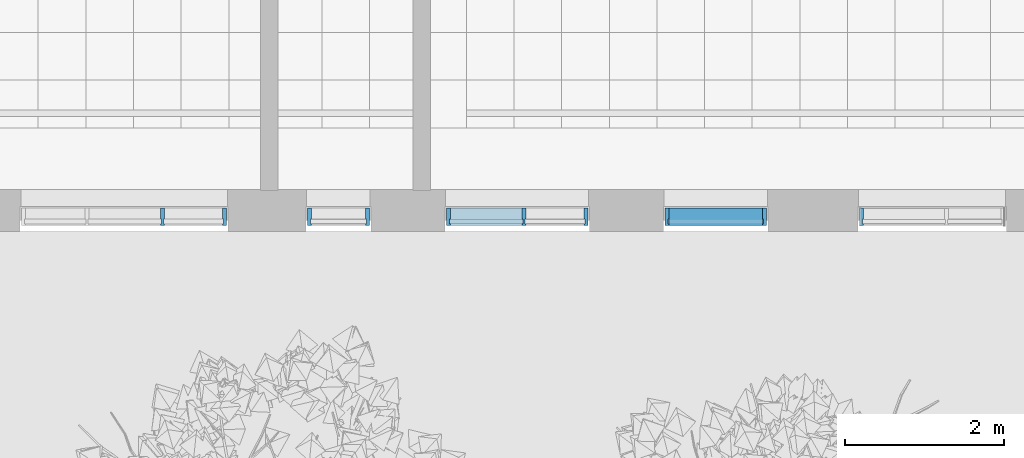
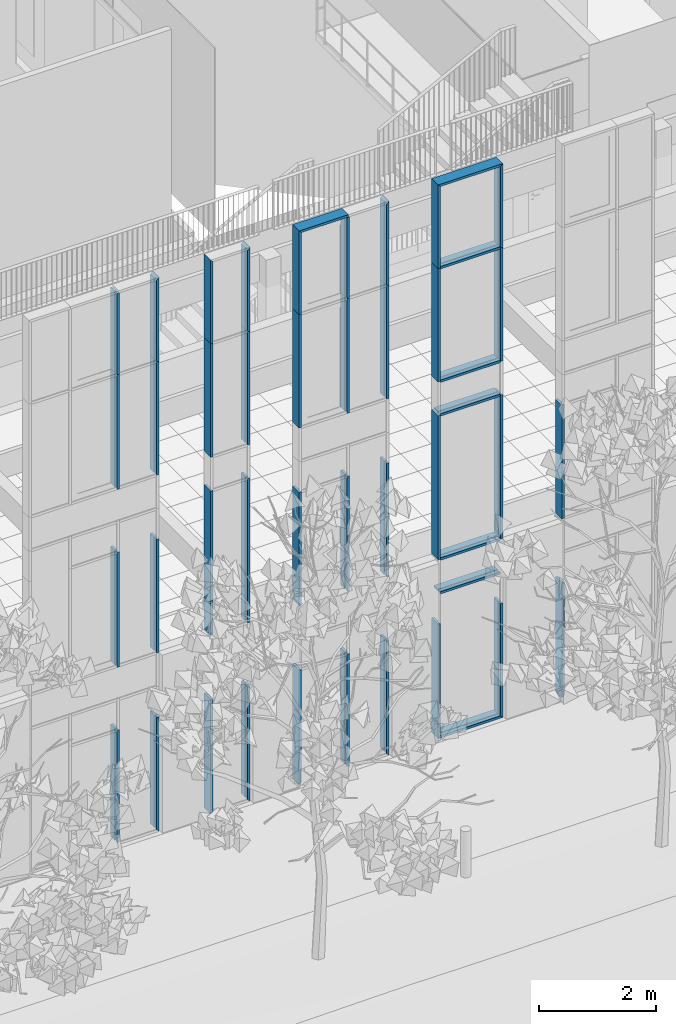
# One storey, part 4 of 246: 46 members, 5 elements without a shape of their own.
"""IFC2X3 building model written with IfcOpenShell, lengths in millimetres."""

from ifc_helpers import new_model, entity, si_unit, converted_unit, derived_unit, money_unit, direction, frame, origin_with_axes, place, context, subcontext, project, spatial, faceted_brep, source, transform, mapped, material, type_object, element, aggregate, save


model = new_model("IFC2X3")

# Units and contexts
model_context = context("Model", 3, precision=0.01, world=origin_with_axes(), true_north=direction((0.0, 1.0)))
body_context = subcontext(model_context, "Body", "Model", "MODEL_VIEW")
ifc_project = project(units=[si_unit("LENGTHUNIT", "METRE", prefix="MILLI"), si_unit("AREAUNIT", "SQUARE_METRE"), si_unit("VOLUMEUNIT", "CUBIC_METRE"), converted_unit("PLANEANGLEUNIT", "DEGREE", entity("IfcPlaneAngleMeasure", 0.0174532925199), si_unit("PLANEANGLEUNIT", "RADIAN"), dimensions=[0, 0, 0, 0, 0, 0, 0]), si_unit("SOLIDANGLEUNIT", "STERADIAN"), money_unit("EUR"), converted_unit("TIMEUNIT", "Year", entity("IfcTimeMeasure", 31556926.0), si_unit("TIMEUNIT", "SECOND"), dimensions=[0, 0, 1, 0, 0, 0, 0]), si_unit("MASSUNIT", "GRAM", prefix="KILO"), si_unit("THERMODYNAMICTEMPERATUREUNIT", "DEGREE_CELSIUS"), si_unit("LUMINOUSINTENSITYUNIT", "LUMEN"), si_unit("ENERGYUNIT", "JOULE", prefix="MEGA"), derived_unit("THERMALCONDUCTANCEUNIT", [(si_unit("POWERUNIT", "WATT"), 1), (si_unit("LENGTHUNIT", "METRE"), -1), (si_unit("THERMODYNAMICTEMPERATUREUNIT", "KELVIN"), -1)]), derived_unit("SPECIFICHEATCAPACITYUNIT", [(si_unit("ENERGYUNIT", "JOULE"), 1), (si_unit("MASSUNIT", "GRAM", prefix="KILO"), -1), (si_unit("THERMODYNAMICTEMPERATUREUNIT", "KELVIN"), -1)]), derived_unit("MASSDENSITYUNIT", [(si_unit("MASSUNIT", "GRAM", prefix="KILO"), 1), (si_unit("VOLUMEUNIT", "CUBIC_METRE"), -1)])], contexts=[model_context])

# Site, building, storey
site_placement = place(None, origin_with_axes())
site = spatial("IfcSite", under=ifc_project, at=site_placement, Name="L.Koidula tn 11b", CompositionType="ELEMENT")
building_placement = place(site_placement, origin_with_axes())
building = spatial("IfcBuilding", under=site, at=building_placement, Name="Rakvere Riigigümnaasium", CompositionType="ELEMENT")
storey_placement = place(building_placement, origin_with_axes())
storey = spatial("IfcBuildingStorey", under=building, at=storey_placement, Name="1.korrus 0,00", CompositionType="ELEMENT", Elevation=0.0)

# Curtain wall, members
curtain_wall_type = type_object("IfcCurtainWallType", Name="Curtain Wall Type", PredefinedType="NOTDEFINED")
curtain_wall_1_placement = place(storey_placement, frame((54287.5000684, 5111.45334637, -1.61944652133e-05), z_axis=(0.0, 0.0, 1.0), x_axis=(1.0, 0.0, 0.0)))
curtain_wall_1 = element("IfcCurtainWall", 1, at=curtain_wall_1_placement, inside=storey, type_object=curtain_wall_type, Name="KLF-05-2B")
ifc_material = material(Name="Alumiiniumprofiil (RAL 7021)")
member_type_1 = type_object("IfcMemberType", Name="Boundary Frame 50 x 222", PredefinedType="MULLION")
shared_shape_1 = source(origin_with_axes(), body_context, "Body", "Brep", [
    faceted_brep([(37.0, -32.5, 2375.00000025), (37.0, 32.5, 2375.00000025), (50.0, 32.5, 2375.00000025), (50.0, 53.0, 2375.00000025), (0.0, 53.0, 2375.00000025), (0.0, -169.0, 2375.00000025), (50.0, -169.0, 2375.00000025), (50.0, -32.5, 2375.00000025), (37.0, -32.5, -2.4712543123e-07), (37.0, 32.5, -2.4712543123e-07), (50.0, 32.5, -2.47125653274e-07), (50.0, 53.0, -2.47125653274e-07), (0.0, 53.0, -2.47125653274e-07), (0.0, -169.0, -2.47125653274e-07), (50.0, -169.0, -2.47125653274e-07), (50.0, -32.5, -2.47125653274e-07)], [[[0, 1, 2, 3, 4, 5, 6, 7]], [[1, 0, 8, 9]], [[10, 2, 1, 9]], [[2, 10, 11, 3]], [[12, 4, 3, 11]], [[13, 5, 4, 12]], [[14, 6, 5, 13]], [[15, 7, 6, 14]], [[0, 7, 15, 8]], [[8, 15, 14, 13, 12, 11, 10, 9]]]),
])
member_1_placement = place(curtain_wall_1_placement, frame((402.500049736, 0.0, 7465.0), z_axis=(-9.88502865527e-09, 0.0, 1.0), x_axis=(-1.0, 0.0, -9.88502865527e-09)))
member_1 = element("IfcMember", 2, at=member_1_placement, type_object=member_type_1, material=ifc_material, Name="KLF-05-7B-Profiilid", ObjectType="MULLION", context=body_context, shape_type="MappedRepresentation", body=[
    mapped(shared_shape_1, transform((0.0, 0.0, 0.0))),
])
member_2_placement = place(curtain_wall_1_placement, frame((402.500049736, 0.0, 3745.0), z_axis=(0.0, 0.0, 1.0), x_axis=(-1.0, 0.0, 0.0)))
member_2 = element("IfcMember", 3, at=member_2_placement, type_object=member_type_1, material=ifc_material, Name="KLF-05-4B-Profiilid", ObjectType="MULLION", context=body_context, shape_type="MappedRepresentation", body=[
    mapped(shared_shape_1, transform((0.0, 0.0, 0.0))),
])

# Curtain wall, member
curtain_wall_2_placement = place(storey_placement, frame((51550.0001978, 5111.45334637, -1.61944652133e-05), z_axis=(0.0, 0.0, 1.0), x_axis=(1.0, 0.0, 0.0)))
curtain_wall_2 = element("IfcCurtainWall", 4, at=curtain_wall_2_placement, inside=storey, type_object=curtain_wall_type, Name="KLF-05-4A")
member_3_placement = place(curtain_wall_2_placement, frame((390.000208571, 0.0, 7465.0), z_axis=(-9.66678881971e-09, 0.0, 1.0), x_axis=(-1.0, 0.0, -9.66678881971e-09)))
member_3 = element("IfcMember", 5, at=member_3_placement, type_object=member_type_1, material=ifc_material, Name="KLF-05-0A-Profiilid", ObjectType="MULLION", context=body_context, shape_type="MappedRepresentation", body=[
    mapped(shared_shape_1, transform((0.0, 0.0, 0.0))),
])

curtain_wall_3_placement = place(storey_placement, frame((56300.0000472, 5111.45334637, -1.61944652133e-05), z_axis=(0.0, 0.0, 1.0), x_axis=(1.0, 0.0, 0.0)))
curtain_wall_3 = element("IfcCurtainWall", 6, at=curtain_wall_3_placement, inside=storey, type_object=curtain_wall_type, Name="KLF-05-1E")
member_4_placement = place(curtain_wall_3_placement, frame((640.000087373, 0.0, 7465.0), z_axis=(-3.1471672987e-08, 0.0, 1.0), x_axis=(-1.0, 0.0, -3.1471672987e-08)))
member_4 = element("IfcMember", 7, at=member_4_placement, type_object=member_type_1, material=ifc_material, Name="KLF-05-7A-Profiilid", ObjectType="MULLION", context=body_context, shape_type="MappedRepresentation", body=[
    mapped(shared_shape_1, transform((0.0, 0.0, 0.0))),
])

# Curtain wall, members
curtain_wall_4_placement = place(storey_placement, frame((48860.000217, 5111.43278481, -1.61944597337e-05), z_axis=(0.0, 0.0, 1.0), x_axis=(1.0, 0.0, 0.0)))
curtain_wall_4 = element("IfcCurtainWall", 8, at=curtain_wall_4_placement, inside=storey, type_object=curtain_wall_type, Name="KLF-05-3A")
member_5_placement = place(curtain_wall_4_placement, frame((1279.99946018, -0.0202452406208, 7465.0), z_axis=(2.10851686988e-09, 0.0, 1.0), x_axis=(-0.999999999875, 1.58166009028e-05, 2.10851687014e-09)))
member_5 = element("IfcMember", 9, at=member_5_placement, type_object=member_type_1, material=ifc_material, Name="KLF-05-1A-Profiilid", ObjectType="MULLION", context=body_context, shape_type="MappedRepresentation", body=[
    mapped(shared_shape_1, transform((0.0, 0.0, 0.0))),
])
member_6_placement = place(curtain_wall_4_placement, frame((1279.99946018, -0.0202452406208, 3745.0), z_axis=(0.0, 0.0, 1.0), x_axis=(-0.999999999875, 1.58166009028e-05, 0.0)))
member_6 = element("IfcMember", 10, at=member_6_placement, type_object=member_type_1, material=ifc_material, Name="KLF-05-8A-Profiilid", ObjectType="MULLION", context=body_context, shape_type="MappedRepresentation", body=[
    mapped(shared_shape_1, transform((0.0, 0.0, 0.0))),
])

# Member
shared_shape_2 = source(origin_with_axes(), body_context, "Body", "Brep", [
    faceted_brep([(-37.0, -32.5, 2375.0), (-50.0, -32.5, 2375.0), (-50.0, -169.0, 2375.0), (0.0, -169.0, 2375.0), (0.0, 53.0, 2375.0), (-50.0, 53.0, 2375.0), (-50.0, 32.5, 2375.0), (-37.0, 32.5, 2375.0), (-37.0, -32.5, 0.0), (-50.0, -32.5, 0.0), (-50.0, -169.0, 0.0), (0.0, -169.0, 0.0), (0.0, 53.0, 0.0), (-50.0, 53.0, 0.0), (-50.0, 32.5, 0.0), (-37.0, 32.5, 0.0)], [[[0, 1, 2, 3, 4, 5, 6, 7]], [[0, 8, 9, 1]], [[9, 10, 2, 1]], [[10, 11, 3, 2]], [[11, 12, 4, 3]], [[12, 13, 5, 4]], [[6, 5, 13, 14]], [[14, 15, 7, 6]], [[7, 15, 8, 0]], [[8, 15, 14, 13, 12, 11, 10, 9]]]),
])
member_7_placement = place(curtain_wall_1_placement, frame((-1377.50004974, 0.0, 3745.0), z_axis=(0.0, 0.0, 1.0), x_axis=(-1.0, 0.0, 0.0)))
member_7 = element("IfcMember", 11, at=member_7_placement, type_object=member_type_1, material=ifc_material, Name="KLF-05-5B-Profiilid", ObjectType="MULLION", context=body_context, shape_type="MappedRepresentation", body=[
    mapped(shared_shape_2, transform((0.0, 0.0, 0.0))),
])

member_8_placement = place(curtain_wall_1_placement, frame((-1377.50004974, 0.0, 7465.0), z_axis=(0.0, 0.0, 1.0), x_axis=(-1.0, 0.0, 0.0)))
member_8 = element("IfcMember", 12, at=member_8_placement, type_object=member_type_1, material=ifc_material, Name="KLF-05-2B-Profiilid", ObjectType="MULLION", context=body_context, shape_type="MappedRepresentation", body=[
    mapped(shared_shape_2, transform((0.0, 0.0, 0.0))),
])

member_9_placement = place(curtain_wall_2_placement, frame((-390.000197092, 0.0, 7465.0), z_axis=(0.0, 0.0, 1.0), x_axis=(-1.0, 0.0, 0.0)))
member_9 = element("IfcMember", 13, at=member_9_placement, type_object=member_type_1, material=ifc_material, Name="KLF-05-4A-Profiilid", ObjectType="MULLION", context=body_context, shape_type="MappedRepresentation", body=[
    mapped(shared_shape_2, transform((0.0, 0.0, 0.0))),
])

member_10_placement = place(curtain_wall_3_placement, frame((-640.00005, 0.0, 7465.0), z_axis=(0.0, 0.0, 1.0), x_axis=(-1.0, 0.0, 0.0)))
member_10 = element("IfcMember", 14, at=member_10_placement, type_object=member_type_1, material=ifc_material, Name="KLF-05-1A-Profiilid", ObjectType="MULLION", context=body_context, shape_type="MappedRepresentation", body=[
    mapped(shared_shape_2, transform((0.0, 0.0, 0.0))),
])

# Curtain wall, member
curtain_wall_5_placement = place(storey_placement, frame((59064.0000846, 5111.45334637, -8.09717250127e-06), z_axis=(0.0, 0.0, 1.0), x_axis=(1.0, 0.0, 0.0)))
curtain_wall_5 = element("IfcCurtainWall", 15, at=curtain_wall_5_placement, inside=storey, type_object=curtain_wall_type, Name="KLF-05-2A")
member_11_placement = place(curtain_wall_5_placement, frame((-954.000087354, 0.0, 3745.0), z_axis=(0.0, 0.0, 1.0), x_axis=(-1.0, 0.0, 0.0)))
member_11 = element("IfcMember", 16, at=member_11_placement, type_object=member_type_1, material=ifc_material, Name="KLF-05-6A-Profiilid", ObjectType="MULLION", context=body_context, shape_type="MappedRepresentation", body=[
    mapped(shared_shape_2, transform((0.0, 0.0, 0.0))),
])

# Member
shared_shape_3 = source(origin_with_axes(), body_context, "Body", "Brep", [
    faceted_brep([(37.0, -32.5, 1712.99983191), (37.0, 32.5, 1712.99983191), (50.0, 32.5, 1699.99983191), (50.0, 53.0, 1699.99983191), (0.0, 53.0, 1749.99983191), (0.0, -169.0, 1749.99983191), (50.0, -169.0, 1699.99983191), (50.0, -32.5, 1699.99983191), (37.0, -32.5, -2.47125875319e-07), (37.0, 32.5, -2.47125875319e-07), (50.0, 32.5, -2.47125764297e-07), (50.0, 53.0, -2.47125764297e-07), (0.0, 53.0, -2.47125764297e-07), (0.0, -169.0, -2.47125764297e-07), (50.0, -169.0, -2.47125764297e-07), (50.0, -32.5, -2.47125764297e-07)], [[[0, 1, 2, 3, 4, 5, 6, 7]], [[1, 0, 8, 9]], [[10, 2, 1, 9]], [[2, 10, 11, 3]], [[12, 4, 3, 11]], [[13, 5, 4, 12]], [[14, 6, 5, 13]], [[15, 7, 6, 14]], [[0, 7, 15, 8]], [[8, 15, 14, 13, 12, 11, 10, 9]]]),
])
member_12_placement = place(curtain_wall_1_placement, frame((402.50002626, 0.0, 9840.0), z_axis=(0.0, 0.0, 1.0), x_axis=(-1.0, 0.0, 0.0)))
member_12 = element("IfcMember", 17, at=member_12_placement, type_object=member_type_1, material=ifc_material, Name="KLF-05-8B-Profiilid", ObjectType="MULLION", context=body_context, shape_type="MappedRepresentation", body=[
    mapped(shared_shape_3, transform((0.0, 0.0, 0.0))),
])

member_13_placement = place(curtain_wall_2_placement, frame((390.000185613, 0.0, 9840.0), z_axis=(-3.82689254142e-08, 0.0, 1.0), x_axis=(-1.0, 0.0, -3.82689254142e-08)))
member_13 = element("IfcMember", 18, at=member_13_placement, type_object=member_type_1, material=ifc_material, Name="KLF-05-1A-Profiilid", ObjectType="MULLION", context=body_context, shape_type="MappedRepresentation", body=[
    mapped(shared_shape_3, transform((0.0, 0.0, 0.0))),
])

member_14_placement = place(curtain_wall_3_placement, frame((640.000012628, 0.0, 9840.0), z_axis=(2.93790209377e-08, 0.0, 1.0), x_axis=(-1.0, 0.0, 2.93790209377e-08)))
member_14 = element("IfcMember", 19, at=member_14_placement, type_object=member_type_1, material=ifc_material, Name="KLF-05-8A-Profiilid", ObjectType="MULLION", context=body_context, shape_type="MappedRepresentation", body=[
    mapped(shared_shape_3, transform((0.0, 0.0, 0.0))),
])

member_15_placement = place(curtain_wall_4_placement, frame((1279.99946519, -0.0202452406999, 9840.0), z_axis=(3.89462512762e-08, 0.0, 1.0), x_axis=(-0.999999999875, 1.58166009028e-05, 3.89462512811e-08)))
member_15 = element("IfcMember", 20, at=member_15_placement, type_object=member_type_1, material=ifc_material, Name="KLF-05-2A-Profiilid", ObjectType="MULLION", context=body_context, shape_type="MappedRepresentation", body=[
    mapped(shared_shape_3, transform((0.0, 0.0, 0.0))),
])

member_type_2 = type_object("IfcMemberType", Name="Mullion Frame 50 x 222", PredefinedType="MULLION")
shared_shape_4 = source(origin_with_axes(), body_context, "Body", "Brep", [
    faceted_brep([(-12.0, -32.5, 2375.0), (-25.0, -32.5, 2375.0), (-25.0, -169.0, 2375.0), (25.0, -169.0, 2375.0), (25.0, -32.5, 2375.0), (12.0, -32.5, 2375.0), (12.0, 32.5, 2375.0), (25.0, 32.5, 2375.0), (25.0, 53.0, 2375.0), (-25.0, 53.0, 2375.0), (-25.0, 32.5, 2375.0), (-12.0, 32.5, 2375.0), (-12.0, -32.5, -25.0), (-25.0, -32.5, -25.0), (-25.0, -169.0, -25.0), (25.0, -169.0, -25.0), (25.0, -32.5, -25.0), (12.0, -32.5, -25.0), (12.0, 32.5, -25.0), (25.0, 32.5, -25.0), (25.0, 53.0, -25.0), (-25.0, 53.0, -25.0), (-25.0, 32.5, -25.0), (-12.0, 32.5, -25.0)], [[[0, 1, 2, 3, 4, 5, 6, 7, 8, 9, 10, 11]], [[1, 0, 12, 13]], [[1, 13, 14, 2]], [[3, 2, 14, 15]], [[4, 3, 15, 16]], [[4, 16, 17, 5]], [[5, 17, 18, 6]], [[7, 6, 18, 19]], [[19, 20, 8, 7]], [[9, 8, 20, 21]], [[22, 10, 9, 21]], [[11, 10, 22, 23]], [[0, 11, 23, 12]], [[23, 22, 21, 20, 19, 18, 17, 16, 15, 14, 13, 12]]]),
])
member_16_placement = place(curtain_wall_1_placement, frame((-402.500049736, 0.0, 3745.0), z_axis=(0.0, 0.0, 1.0), x_axis=(-1.0, 0.0, 0.0)))
member_16 = element("IfcMember", 21, at=member_16_placement, type_object=member_type_2, material=ifc_material, Name="KLF-05-2B-Profiilid", ObjectType="MULLION", context=body_context, shape_type="MappedRepresentation", body=[
    mapped(shared_shape_4, transform((0.0, 0.0, 0.0))),
])

member_17_placement = place(curtain_wall_1_placement, frame((-402.500049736, 0.0, 7465.0), z_axis=(0.0, 0.0, 1.0), x_axis=(-1.0, 0.0, 0.0)))
member_17 = element("IfcMember", 22, at=member_17_placement, type_object=member_type_2, material=ifc_material, Name="KLF-05-3B-Profiilid", ObjectType="MULLION", context=body_context, shape_type="MappedRepresentation", body=[
    mapped(shared_shape_4, transform((0.0, 0.0, 0.0))),
])

member_18_placement = place(curtain_wall_4_placement, frame((474.999999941, -0.00751288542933, 7465.0), z_axis=(0.0, 0.0, 1.0), x_axis=(-0.999999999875, 1.58166009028e-05, 0.0)))
member_18 = element("IfcMember", 23, at=member_18_placement, type_object=member_type_2, material=ifc_material, Name="KLF-05-4A-Profiilid", ObjectType="MULLION", context=body_context, shape_type="MappedRepresentation", body=[
    mapped(shared_shape_4, transform((0.0, 0.0, 0.0))),
])

member_19_placement = place(curtain_wall_4_placement, frame((474.999999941, -0.00751288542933, 3745.0), z_axis=(0.0, 0.0, 1.0), x_axis=(-0.999999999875, 1.58166009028e-05, 0.0)))
member_19 = element("IfcMember", 24, at=member_19_placement, type_object=member_type_2, material=ifc_material, Name="KLF-05-3A-Profiilid", ObjectType="MULLION", context=body_context, shape_type="MappedRepresentation", body=[
    mapped(shared_shape_4, transform((0.0, 0.0, 0.0))),
])

shared_shape_5 = source(origin_with_axes(), body_context, "Body", "Brep", [
    faceted_brep([(37.0, -32.5, 2400.0), (37.0, 32.5, 2400.0), (50.0, 32.5, 2400.0), (50.0, 53.0, 2400.0), (0.0, 53.0, 2400.0), (0.0, -169.0, 2400.0), (50.0, -169.0, 2400.0), (50.0, -32.5, 2400.0), (37.0, -32.5, 37.0), (37.0, 32.5, 37.0), (50.0, 32.5, 50.0), (50.0, 53.0, 50.0), (0.0, 53.0, 0.0), (0.0, -169.0, 0.0), (50.0, -169.0, 50.0), (50.0, -32.5, 50.0)], [[[0, 1, 2, 3, 4, 5, 6, 7]], [[1, 0, 8, 9]], [[10, 2, 1, 9]], [[2, 10, 11, 3]], [[4, 3, 11, 12]], [[5, 4, 12, 13]], [[6, 5, 13, 14]], [[15, 7, 6, 14]], [[0, 7, 15, 8]], [[8, 15, 14, 13, 12, 11, 10, 9]]]),
])
member_20_placement = place(curtain_wall_1_placement, frame((402.500049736, 0.0, 0.0), z_axis=(0.0, 0.0, 1.0), x_axis=(-1.0, 0.0, 0.0)))
member_20 = element("IfcMember", 25, at=member_20_placement, type_object=member_type_1, material=ifc_material, Name="KLF-05-1B-Profiilid", ObjectType="MULLION", context=body_context, shape_type="MappedRepresentation", body=[
    mapped(shared_shape_5, transform((0.0, 0.0, 0.0))),
])

member_21_placement = place(curtain_wall_2_placement, frame((390.000208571, 0.0, 0.0), z_axis=(0.0, 0.0, 1.0), x_axis=(-1.0, 0.0, 0.0)))
member_21 = element("IfcMember", 26, at=member_21_placement, type_object=member_type_1, material=ifc_material, Name="KLF-05-5A-Profiilid", ObjectType="MULLION", context=body_context, shape_type="MappedRepresentation", body=[
    mapped(shared_shape_5, transform((0.0, 0.0, 0.0))),
])

member_22_placement = place(curtain_wall_3_placement, frame((640.000087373, 0.0, 0.0), z_axis=(0.0, 0.0, 1.0), x_axis=(-1.0, 0.0, 0.0)))
member_22 = element("IfcMember", 27, at=member_22_placement, type_object=member_type_1, material=ifc_material, Name="KLF-05-2A-Profiilid", ObjectType="MULLION", context=body_context, shape_type="MappedRepresentation", body=[
    mapped(shared_shape_5, transform((0.0, 0.0, 0.0))),
])

member_23_placement = place(curtain_wall_4_placement, frame((1279.99946018, -0.0202452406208, 0.0), z_axis=(0.0, 0.0, 1.0), x_axis=(-0.999999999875, 1.58166009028e-05, 0.0)))
member_23 = element("IfcMember", 28, at=member_23_placement, type_object=member_type_1, material=ifc_material, Name="KLF-05-5A-Profiilid", ObjectType="MULLION", context=body_context, shape_type="MappedRepresentation", body=[
    mapped(shared_shape_5, transform((0.0, 0.0, 0.0))),
])

shared_shape_6 = source(origin_with_axes(), body_context, "Body", "Brep", [
    faceted_brep([(-12.0, -32.5, 1699.99983191), (-25.0, -32.5, 1699.99983191), (-25.0, -169.0, 1699.99983191), (25.0, -169.0, 1699.99983191), (25.0, -32.5, 1699.99983191), (12.0, -32.5, 1699.99983191), (12.0, 32.5, 1699.99983191), (25.0, 32.5, 1699.99983191), (25.0, 53.0, 1699.99983191), (-25.0, 53.0, 1699.99983191), (-25.0, 32.5, 1699.99983191), (-12.0, 32.5, 1699.99983191), (-12.0, -32.5, 0.0), (-25.0, -32.5, 0.0), (-25.0, -169.0, 0.0), (25.0, -169.0, 0.0), (25.0, -32.5, 0.0), (12.0, -32.5, 0.0), (12.0, 32.5, 0.0), (25.0, 32.5, 0.0), (25.0, 53.0, 0.0), (-25.0, 53.0, 0.0), (-25.0, 32.5, 0.0), (-12.0, 32.5, 0.0)], [[[0, 1, 2, 3, 4, 5, 6, 7, 8, 9, 10, 11]], [[1, 0, 12, 13]], [[1, 13, 14, 2]], [[3, 2, 14, 15]], [[4, 3, 15, 16]], [[4, 16, 17, 5]], [[5, 17, 18, 6]], [[7, 6, 18, 19]], [[19, 20, 8, 7]], [[9, 8, 20, 21]], [[22, 10, 9, 21]], [[11, 10, 22, 23]], [[0, 11, 23, 12]], [[23, 22, 21, 20, 19, 18, 17, 16, 15, 14, 13, 12]]]),
])
member_24_placement = place(curtain_wall_1_placement, frame((-402.500049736, 0.0, 9840.0), z_axis=(0.0, 0.0, 1.0), x_axis=(-1.0, 0.0, 0.0)))
member_24 = element("IfcMember", 29, at=member_24_placement, type_object=member_type_2, material=ifc_material, Name="KLF-05-5B-Profiilid", ObjectType="MULLION", context=body_context, shape_type="MappedRepresentation", body=[
    mapped(shared_shape_6, transform((0.0, 0.0, 0.0))),
])

member_25_placement = place(curtain_wall_4_placement, frame((474.999999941, -0.00751288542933, 9840.0), z_axis=(0.0, 0.0, 1.0), x_axis=(-0.999999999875, 1.58166009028e-05, 0.0)))
member_25 = element("IfcMember", 30, at=member_25_placement, type_object=member_type_2, material=ifc_material, Name="KLF-05-0A-Profiilid", ObjectType="MULLION", context=body_context, shape_type="MappedRepresentation", body=[
    mapped(shared_shape_6, transform((0.0, 0.0, 0.0))),
])

shared_shape_7 = source(origin_with_axes(), body_context, "Body", "Brep", [
    faceted_brep([(-37.0, -32.5, 2400.0), (-50.0, -32.5, 2400.0), (-50.0, -169.0, 2400.0), (0.0, -169.0, 2400.0), (0.0, 53.0, 2400.0), (-50.0, 53.0, 2400.0), (-50.0, 32.5, 2400.0), (-37.0, 32.5, 2400.0), (-37.0, -32.5, 37.0), (-50.0, -32.5, 50.0), (-50.0, -169.0, 50.0), (0.0, -169.0, 0.0), (0.0, 53.0, 0.0), (-50.0, 53.0, 50.0), (-50.0, 32.5, 50.0), (-37.0, 32.5, 37.0)], [[[0, 1, 2, 3, 4, 5, 6, 7]], [[0, 8, 9, 1]], [[9, 10, 2, 1]], [[2, 10, 11, 3]], [[3, 11, 12, 4]], [[4, 12, 13, 5]], [[6, 5, 13, 14]], [[14, 15, 7, 6]], [[7, 15, 8, 0]], [[8, 15, 14, 13, 12, 11, 10, 9]]]),
])
member_26_placement = place(curtain_wall_1_placement, frame((-1377.50004974, 0.0, 0.0), z_axis=(0.0, 0.0, 1.0), x_axis=(-1.0, 0.0, 0.0)))
member_26 = element("IfcMember", 31, at=member_26_placement, type_object=member_type_1, material=ifc_material, Name="KLF-05-8B-Profiilid", ObjectType="MULLION", context=body_context, shape_type="MappedRepresentation", body=[
    mapped(shared_shape_7, transform((0.0, 0.0, 0.0))),
])

member_27_placement = place(curtain_wall_2_placement, frame((-390.000197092, 0.0, 0.0), z_axis=(0.0, 0.0, 1.0), x_axis=(-1.0, 0.0, 0.0)))
member_27 = element("IfcMember", 32, at=member_27_placement, type_object=member_type_1, material=ifc_material, Name="KLF-05-9A-Profiilid", ObjectType="MULLION", context=body_context, shape_type="MappedRepresentation", body=[
    mapped(shared_shape_7, transform((0.0, 0.0, 0.0))),
])

member_28_placement = place(curtain_wall_3_placement, frame((-640.00005, 0.0, 0.0), z_axis=(0.0, 0.0, 1.0), x_axis=(-1.0, 0.0, 0.0)))
member_28 = element("IfcMember", 33, at=member_28_placement, type_object=member_type_1, material=ifc_material, Name="KLF-05-6A-Profiilid", ObjectType="MULLION", context=body_context, shape_type="MappedRepresentation", body=[
    mapped(shared_shape_7, transform((0.0, 0.0, 0.0))),
])

member_29_placement = place(curtain_wall_5_placement, frame((-954.000087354, 0.0, 0.0), z_axis=(0.0, 0.0, 1.0), x_axis=(-1.0, 0.0, 0.0)))
member_29 = element("IfcMember", 34, at=member_29_placement, type_object=member_type_1, material=ifc_material, Name="KLF-05-9A-Profiilid", ObjectType="MULLION", context=body_context, shape_type="MappedRepresentation", body=[
    mapped(shared_shape_7, transform((0.0, 0.0, 0.0))),
])

aggregate(curtain_wall_5, [member_29, member_11])

shared_shape_8 = source(origin_with_axes(), body_context, "Body", "Brep", [
    faceted_brep([(-37.0, -32.5, 1712.99983191), (-50.0, -32.5, 1699.99983191), (-50.0, -169.0, 1699.99983191), (0.0, -169.0, 1749.99983191), (0.0, 53.0, 1749.99983191), (-50.0, 53.0, 1699.99983191), (-50.0, 32.5, 1699.99983191), (-37.0, 32.5, 1712.99983191), (-37.0, -32.5, 0.0), (-50.0, -32.5, 0.0), (-50.0, -169.0, 0.0), (0.0, -169.0, 0.0), (0.0, 53.0, 0.0), (-50.0, 53.0, 0.0), (-50.0, 32.5, 0.0), (-37.0, 32.5, 0.0)], [[[0, 1, 2, 3, 4, 5, 6, 7]], [[0, 8, 9, 1]], [[9, 10, 2, 1]], [[10, 11, 3, 2]], [[11, 12, 4, 3]], [[12, 13, 5, 4]], [[6, 5, 13, 14]], [[14, 15, 7, 6]], [[7, 15, 8, 0]], [[8, 15, 14, 13, 12, 11, 10, 9]]]),
])
member_30_placement = place(curtain_wall_1_placement, frame((-1377.50004974, 0.0, 9840.0), z_axis=(0.0, 0.0, 1.0), x_axis=(-1.0, 0.0, 0.0)))
member_30 = element("IfcMember", 35, at=member_30_placement, type_object=member_type_1, material=ifc_material, Name="KLF-05-1B-Profiilid", ObjectType="MULLION", context=body_context, shape_type="MappedRepresentation", body=[
    mapped(shared_shape_8, transform((0.0, 0.0, 0.0))),
])

member_31_placement = place(curtain_wall_2_placement, frame((-390.000197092, 0.0, 9840.0), z_axis=(0.0, 0.0, 1.0), x_axis=(-1.0, 0.0, 0.0)))
member_31 = element("IfcMember", 36, at=member_31_placement, type_object=member_type_1, material=ifc_material, Name="KLF-05-3A-Profiilid", ObjectType="MULLION", context=body_context, shape_type="MappedRepresentation", body=[
    mapped(shared_shape_8, transform((0.0, 0.0, 0.0))),
])

member_32_placement = place(curtain_wall_3_placement, frame((-640.00005, 0.0, 9840.0), z_axis=(0.0, 0.0, 1.0), x_axis=(-1.0, 0.0, 0.0)))
member_32 = element("IfcMember", 37, at=member_32_placement, type_object=member_type_1, material=ifc_material, Name="KLF-05-0A-Profiilid", ObjectType="MULLION", context=body_context, shape_type="MappedRepresentation", body=[
    mapped(shared_shape_8, transform((0.0, 0.0, 0.0))),
])

shared_shape_9 = source(origin_with_axes(), body_context, "Body", "Brep", [
    faceted_brep([(37.0, -32.5, 3015.0), (37.0, 32.5, 3015.0), (50.0, 32.5, 3015.0), (50.0, 53.0, 3015.0), (0.0, 53.0, 3015.0), (0.0, -169.0, 3015.0), (50.0, -169.0, 3015.0), (50.0, -32.5, 3015.0), (37.0, -32.5, 0.0), (37.0, 32.5, 0.0), (50.0, 32.5, 0.0), (50.0, 53.0, 0.0), (0.0, 53.0, 0.0), (0.0, -169.0, 0.0), (50.0, -169.0, 0.0), (50.0, -32.5, 0.0)], [[[0, 1, 2, 3, 4, 5, 6, 7]], [[1, 0, 8, 9]], [[10, 2, 1, 9]], [[2, 10, 11, 3]], [[12, 4, 3, 11]], [[13, 5, 4, 12]], [[14, 6, 5, 13]], [[15, 7, 6, 14]], [[0, 7, 15, 8]], [[8, 15, 14, 13, 12, 11, 10, 9]]]),
])
member_33_placement = place(curtain_wall_2_placement, frame((390.000208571, 0.0, 3745.0), z_axis=(0.0, 0.0, 1.0), x_axis=(-1.0, 0.0, 0.0)))
member_33 = element("IfcMember", 38, at=member_33_placement, type_object=member_type_1, material=ifc_material, Name="KLF-05-8A-Profiilid", ObjectType="MULLION", context=body_context, shape_type="MappedRepresentation", body=[
    mapped(shared_shape_9, transform((0.0, 0.0, 0.0))),
])

member_34_placement = place(curtain_wall_3_placement, frame((640.000087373, 0.0, 3745.0), z_axis=(0.0, 0.0, 1.0), x_axis=(-1.0, 0.0, 0.0)))
member_34 = element("IfcMember", 39, at=member_34_placement, type_object=member_type_1, material=ifc_material, Name="KLF-05-5A-Profiilid", ObjectType="MULLION", context=body_context, shape_type="MappedRepresentation", body=[
    mapped(shared_shape_9, transform((0.0, 0.0, 0.0))),
])

shared_shape_10 = source(origin_with_axes(), body_context, "Body", "Brep", [
    faceted_brep([(-12.0, -32.5, 2400.0), (-25.0, -32.5, 2400.0), (-25.0, -169.0, 2400.0), (25.0, -169.0, 2400.0), (25.0, -32.5, 2400.0), (12.0, -32.5, 2400.0), (12.0, 32.5, 2400.0), (25.0, 32.5, 2400.0), (25.0, 53.0, 2400.0), (-25.0, 53.0, 2400.0), (-25.0, 32.5, 2400.0), (-12.0, 32.5, 2400.0), (-12.0, -32.5, 50.0), (-25.0, -32.5, 50.0), (-25.0, -169.0, 50.0), (25.0, -169.0, 50.0), (25.0, -32.5, 50.0), (12.0, -32.5, 50.0), (12.0, 32.5, 50.0), (25.0, 32.5, 50.0), (25.0, 53.0, 50.0), (-25.0, 53.0, 50.0), (-25.0, 32.5, 50.0), (-12.0, 32.5, 50.0)], [[[0, 1, 2, 3, 4, 5, 6, 7, 8, 9, 10, 11]], [[1, 0, 12, 13]], [[1, 13, 14, 2]], [[2, 14, 15, 3]], [[4, 3, 15, 16]], [[4, 16, 17, 5]], [[5, 17, 18, 6]], [[7, 6, 18, 19]], [[19, 20, 8, 7]], [[8, 20, 21, 9]], [[22, 10, 9, 21]], [[11, 10, 22, 23]], [[0, 11, 23, 12]], [[23, 22, 21, 20, 19, 18, 17, 16, 15, 14, 13, 12]]]),
])
member_35_placement = place(curtain_wall_1_placement, frame((-402.500049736, 0.0, 0.0), z_axis=(0.0, 0.0, 1.0), x_axis=(-1.0, 0.0, 0.0)))
member_35 = element("IfcMember", 40, at=member_35_placement, type_object=member_type_2, material=ifc_material, Name="KLF-05-2B-Profiilid", ObjectType="MULLION", context=body_context, shape_type="MappedRepresentation", body=[
    mapped(shared_shape_10, transform((0.0, 0.0, 0.0))),
])

member_36_placement = place(curtain_wall_4_placement, frame((474.999999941, -0.00751288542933, 0.0), z_axis=(0.0, 0.0, 1.0), x_axis=(-0.999999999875, 1.58166009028e-05, 0.0)))
member_36 = element("IfcMember", 41, at=member_36_placement, type_object=member_type_2, material=ifc_material, Name="KLF-05-3A-Profiilid", ObjectType="MULLION", context=body_context, shape_type="MappedRepresentation", body=[
    mapped(shared_shape_10, transform((0.0, 0.0, 0.0))),
])

aggregate(curtain_wall_4, [member_36, member_18, member_19, member_5, member_6, member_23, member_25, member_15])

member_type_3 = type_object("IfcMemberType", Name="Transom Frame 50 x 222", PredefinedType="MULLION")
shared_shape_11 = source(origin_with_axes(), body_context, "Body", "Brep", [
    faceted_brep([(-12.0, -32.5, 1230.00013737), (-25.0, -32.5, 1230.00013737), (-25.0, -169.0, 1230.00013737), (25.0, -169.0, 1230.00013737), (25.0, -32.5, 1230.00013737), (12.0, -32.5, 1230.00013737), (12.0, 32.5, 1230.00013737), (25.0, 32.5, 1230.00013737), (25.0, 53.0, 1230.00013737), (-25.0, 53.0, 1230.00013737), (-25.0, 32.5, 1230.00013737), (-12.0, 32.5, 1230.00013737), (-12.0, -32.5, 50.0), (-25.0, -32.5, 50.0), (-25.0, -169.0, 50.0), (25.0, -169.0, 50.0), (25.0, -32.5, 50.0), (12.0, -32.5, 50.0), (12.0, 32.5, 50.0), (25.0, 32.5, 50.0), (25.0, 53.0, 50.0), (-25.0, 53.0, 50.0), (-25.0, 32.5, 50.0), (-12.0, 32.5, 50.0)], [[[0, 1, 2, 3, 4, 5, 6, 7, 8, 9, 10, 11]], [[1, 0, 12, 13]], [[1, 13, 14, 2]], [[2, 14, 15, 3]], [[4, 3, 15, 16]], [[4, 16, 17, 5]], [[5, 17, 18, 6]], [[7, 6, 18, 19]], [[19, 20, 8, 7]], [[8, 20, 21, 9]], [[22, 10, 9, 21]], [[11, 10, 22, 23]], [[0, 11, 23, 12]], [[23, 22, 21, 20, 19, 18, 17, 16, 15, 14, 13, 12]]]),
])
member_37_placement = place(curtain_wall_3_placement, frame((-640.00005, 0.0, 3745.0), z_axis=(1.0, 0.0, 0.0), x_axis=(0.0, 0.0, 1.0)))
member_37 = element("IfcMember", 42, at=member_37_placement, type_object=member_type_3, material=ifc_material, Name="KLF-05-4A-Profiilid", ObjectType="MULLION", context=body_context, shape_type="MappedRepresentation", body=[
    mapped(shared_shape_11, transform((0.0, 0.0, 0.0))),
])

member_38_placement = place(curtain_wall_3_placement, frame((-640.00005, 0.0, 9840.0), z_axis=(1.0, 0.0, 0.0), x_axis=(0.0, 0.0, 1.0)))
member_38 = element("IfcMember", 43, at=member_38_placement, type_object=member_type_3, material=ifc_material, Name="KLF-05-3A-Profiilid", ObjectType="MULLION", context=body_context, shape_type="MappedRepresentation", body=[
    mapped(shared_shape_11, transform((0.0, 0.0, 0.0))),
])

member_39_placement = place(curtain_wall_3_placement, frame((-640.00005, 0.0, 7465.0), z_axis=(1.0, 0.0, 0.0), x_axis=(0.0, 0.0, 1.0)))
member_39 = element("IfcMember", 44, at=member_39_placement, type_object=member_type_3, material=ifc_material, Name="KLF-05-4A-Profiilid", ObjectType="MULLION", context=body_context, shape_type="MappedRepresentation", body=[
    mapped(shared_shape_11, transform((0.0, 0.0, 0.0))),
])

member_40_placement = place(curtain_wall_3_placement, frame((-640.00005, 0.0, 6760.0), z_axis=(1.0, 0.0, 0.0), x_axis=(0.0, 0.0, 1.0)))
member_40 = element("IfcMember", 45, at=member_40_placement, type_object=member_type_3, material=ifc_material, Name="KLF-05-5A-Profiilid", ObjectType="MULLION", context=body_context, shape_type="MappedRepresentation", body=[
    mapped(shared_shape_11, transform((0.0, 0.0, 0.0))),
])

member_41_placement = place(curtain_wall_3_placement, frame((-640.00005, 0.0, 3040.0), z_axis=(1.0, 0.0, 0.0), x_axis=(0.0, 0.0, 1.0)))
member_41 = element("IfcMember", 46, at=member_41_placement, type_object=member_type_3, material=ifc_material, Name="KLF-05-1A-Profiilid", ObjectType="MULLION", context=body_context, shape_type="MappedRepresentation", body=[
    mapped(shared_shape_11, transform((0.0, 0.0, 0.0))),
])

shared_shape_12 = source(origin_with_axes(), body_context, "Body", "Brep", [
    faceted_brep([(-37.0, -32.5, 3015.0), (-50.0, -32.5, 3015.0), (-50.0, -169.0, 3015.0), (0.0, -169.0, 3015.0), (0.0, 53.0, 3015.0), (-50.0, 53.0, 3015.0), (-50.0, 32.5, 3015.0), (-37.0, 32.5, 3015.0), (-37.0, -32.5, 0.0), (-50.0, -32.5, 0.0), (-50.0, -169.0, 0.0), (0.0, -169.0, 0.0), (0.0, 53.0, 0.0), (-50.0, 53.0, 0.0), (-50.0, 32.5, 0.0), (-37.0, 32.5, 0.0)], [[[0, 1, 2, 3, 4, 5, 6, 7]], [[0, 8, 9, 1]], [[9, 10, 2, 1]], [[10, 11, 3, 2]], [[11, 12, 4, 3]], [[12, 13, 5, 4]], [[6, 5, 13, 14]], [[14, 15, 7, 6]], [[7, 15, 8, 0]], [[8, 15, 14, 13, 12, 11, 10, 9]]]),
])
member_42_placement = place(curtain_wall_2_placement, frame((-390.000197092, 0.0, 3745.0), z_axis=(0.0, 0.0, 1.0), x_axis=(-1.0, 0.0, 0.0)))
member_42 = element("IfcMember", 47, at=member_42_placement, type_object=member_type_1, material=ifc_material, Name="KLF-05-6A-Profiilid", ObjectType="MULLION", context=body_context, shape_type="MappedRepresentation", body=[
    mapped(shared_shape_12, transform((0.0, 0.0, 0.0))),
])

aggregate(curtain_wall_2, [member_27, member_42, member_9, member_3, member_33, member_21, member_31, member_13])

member_43_placement = place(curtain_wall_3_placement, frame((-640.00005, 0.0, 3745.0), z_axis=(0.0, 0.0, 1.0), x_axis=(-1.0, 0.0, 0.0)))
member_43 = element("IfcMember", 48, at=member_43_placement, type_object=member_type_1, material=ifc_material, Name="KLF-05-3A-Profiilid", ObjectType="MULLION", context=body_context, shape_type="MappedRepresentation", body=[
    mapped(shared_shape_12, transform((0.0, 0.0, 0.0))),
])

shared_shape_13 = source(origin_with_axes(), body_context, "Body", "Brep", [
    faceted_brep([(37.0, -32.5, 1243.00013737), (37.0, 32.5, 1243.00013737), (50.0, 32.5, 1230.00013737), (50.0, 53.0, 1230.00013737), (0.0, 53.0, 1280.00013737), (0.0, -169.0, 1280.00013737), (50.0, -169.0, 1230.00013737), (50.0, -32.5, 1230.00013737), (37.0, -32.5, 37.0), (37.0, 32.5, 37.0), (50.0, 32.5, 50.0), (50.0, 53.0, 50.0), (0.0, 53.0, 0.0), (0.0, -169.0, 0.0), (50.0, -169.0, 50.0), (50.0, -32.5, 50.0)], [[[0, 1, 2, 3, 4, 5, 6, 7]], [[1, 0, 8, 9]], [[10, 2, 1, 9]], [[2, 10, 11, 3]], [[4, 3, 11, 12]], [[5, 4, 12, 13]], [[6, 5, 13, 14]], [[15, 7, 6, 14]], [[0, 7, 15, 8]], [[8, 15, 14, 13, 12, 11, 10, 9]]]),
])
member_44_placement = place(curtain_wall_3_placement, frame((-640.00005, 0.0, 0.0), z_axis=(1.0, 0.0, 0.0), x_axis=(0.0, 0.0, 1.0)))
member_44 = element("IfcMember", 49, at=member_44_placement, type_object=member_type_1, material=ifc_material, Name="KLF-05-1A-Profiilid", ObjectType="MULLION", context=body_context, shape_type="MappedRepresentation", body=[
    mapped(shared_shape_13, transform((0.0, 0.0, 0.0))),
])

member_45_placement = place(curtain_wall_3_placement, frame((640.000064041, 0.0, 11590.0000411), z_axis=(-1.0, 0.0, 0.0), x_axis=(0.0, 0.0, -1.0)))
member_45 = element("IfcMember", 50, at=member_45_placement, type_object=member_type_1, material=ifc_material, Name="KLF-05-9A-Profiilid", ObjectType="MULLION", context=body_context, shape_type="MappedRepresentation", body=[
    mapped(shared_shape_13, transform((0.0, 0.0, 0.0))),
])

aggregate(curtain_wall_3, [member_28, member_43, member_10, member_44, member_37, member_38, member_39, member_40, member_4, member_34, member_41, member_22, member_32, member_45, member_14])

shared_shape_14 = source(origin_with_axes(), body_context, "Body", "Brep", [
    faceted_brep([(37.0, -32.5, 938.0), (37.0, 32.5, 938.0), (50.0, 32.5, 925.0), (50.0, 53.0, 925.0), (0.0, 53.0, 975.0), (0.0, -169.0, 975.0), (50.0, -169.0, 925.0), (50.0, -32.5, 925.0), (37.0, -32.5, 0.0), (37.0, 32.5, 0.0), (50.0, 32.5, 0.0), (50.0, 53.0, 0.0), (0.0, 53.0, 0.0), (0.0, -169.0, 0.0), (50.0, -169.0, 0.0), (50.0, -32.5, 0.0)], [[[0, 1, 2, 3, 4, 5, 6, 7]], [[1, 0, 8, 9]], [[10, 2, 1, 9]], [[2, 10, 11, 3]], [[12, 4, 3, 11]], [[13, 5, 4, 12]], [[14, 6, 5, 13]], [[15, 7, 6, 14]], [[0, 7, 15, 8]], [[8, 15, 14, 13, 12, 11, 10, 9]]]),
])
member_46_placement = place(curtain_wall_1_placement, frame((-402.500049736, 0.0, 11589.9998319), z_axis=(-1.0, 0.0, 0.0), x_axis=(0.0, 0.0, -1.0)))
member_46 = element("IfcMember", 51, at=member_46_placement, type_object=member_type_1, material=ifc_material, Name="KLF-05-0B-Profiilid", ObjectType="MULLION", context=body_context, shape_type="MappedRepresentation", body=[
    mapped(shared_shape_14, transform((0.0, 0.0, 0.0))),
])

aggregate(curtain_wall_1, [member_35, member_16, member_17, member_26, member_7, member_8, member_1, member_2, member_20, member_30, member_46, member_24, member_12])

save(model, "model.ifc")
